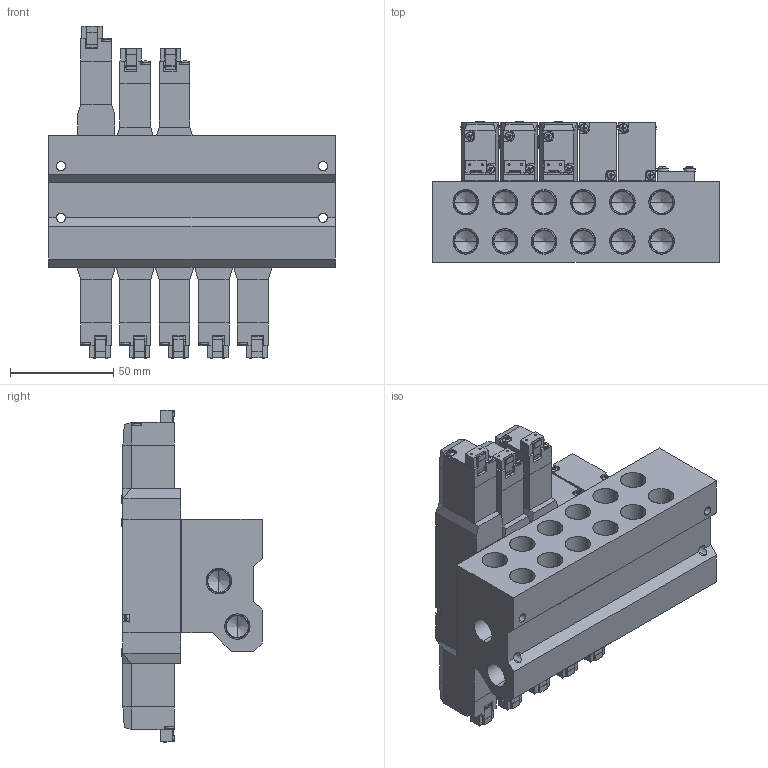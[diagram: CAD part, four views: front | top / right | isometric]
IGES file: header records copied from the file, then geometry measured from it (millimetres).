
Start section: SolidWorks IGES file using analytic representation for surfaces
Global section: file name: D:\Custom\3D繪製\PC\PC13\MFS#-PS13-02-SP.IGS,1; native system: 5HSolidWorks 2014; preprocessor: SolidWorks 2014; author: Chieh_Lu; date: 150915.182918; units: millimetre
Bounding box: 139 x 68 x 161 mm (x, y, z)
Surface area: 153783.4 mm2 (no closed solid volume)
Topology: 0 solids, 0 shells, 3008 faces, 25880 edges, 25782 vertices
Faces by surface type: bspline 2064, revolution 944
